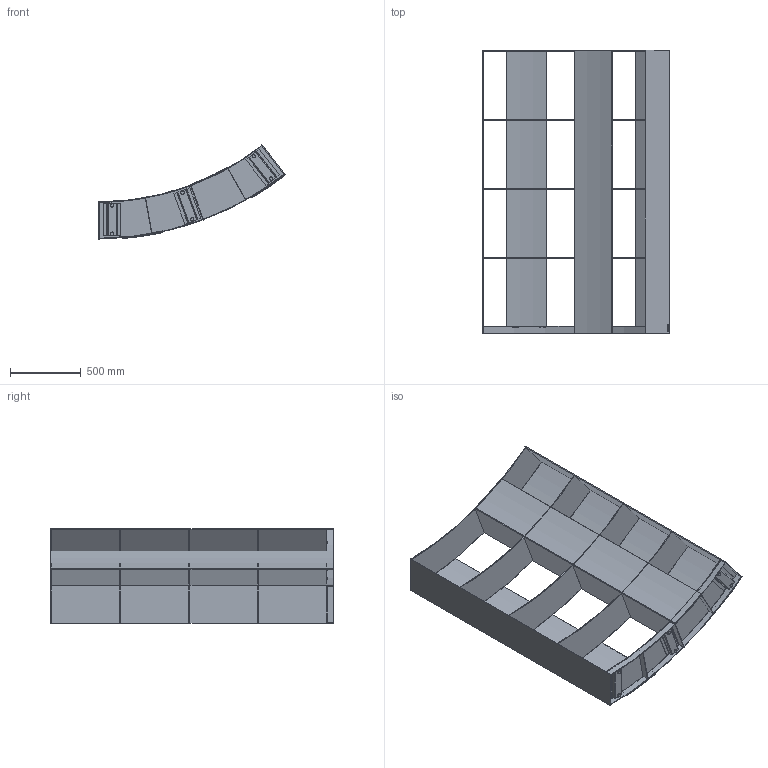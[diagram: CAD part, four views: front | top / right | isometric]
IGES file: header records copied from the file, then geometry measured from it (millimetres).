
Start section: SolidWorks IGES file using analytic representation for surfaces
Global section: file name: \\UTENTI\Dati Utenti\Tecnico\DC\2D - 3D per sito\3D\DeCastelli-3D-Nami.igs; native system: SolidWorks 2022; preprocessor: SolidWorks 2022; author: Silviad; date: 240711.172605; units: millimetre
Bounding box: 1319.67 x 2000 x 670.11 mm (x, y, z)
Surface area: 12417239 mm2 (no closed solid volume)
Topology: 0 solids, 0 shells, 240 faces, 2417 edges, 2417 vertices
Faces by surface type: revolution 126, bspline 114
